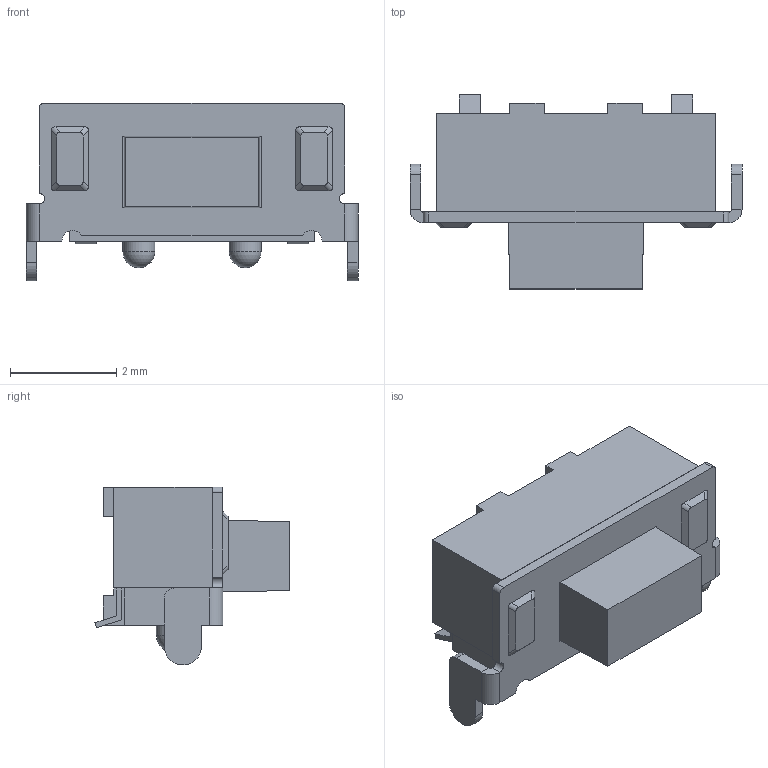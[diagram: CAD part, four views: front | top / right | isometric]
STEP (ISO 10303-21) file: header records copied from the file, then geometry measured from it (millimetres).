
FILE_DESCRIPTION((''),'2;1');
FILE_NAME('JQD2560L-B0351-ADG-1-405_ASM','2026-05-21T16:27:34',('Admin'),(''),'CREO PARAMETRIC BY PTC INC, 2019224','CREO PARAMETRIC BY PTC INC, 2019224','');
FILE_SCHEMA(('AUTOMOTIVE_DESIGN { 1 0 10303 214 1 1 1 1 }'));
Length unit declared in the file: millimetre
Products named in the file (3): JQD2560L-B0351-ADG-1-405; JQD2560L-B0351-ADG-1-405_01; JQD2560L-B0351-ADG-1-405_ASM
Assembly tree (2 placements, depth 2):
  JQD2560L-B0351-ADG-1-405_ASM
    JQD2560L-B0351-ADG-1-405
    JQD2560L-B0351-ADG-1-405_01
Bounding box: 6.25 x 3.66 x 3.35 mm (x, y, z)
Volume: 32.4 mm3; surface area: 106.7 mm2
Topology: 2 solids, 2 shells, 133 faces, 348 edges, 226 vertices
Faces by surface type: plane 103, cylinder 26, sphere 4
Entity records: 5088 total; most frequent: CARTESIAN_POINT 755, ORIENTED_EDGE 684, DIRECTION 652, EDGE_CURVE 342, VECTOR 288, LINE 288, PRESENTATION_STYLE_ASSIGNMENT 239, VERTEX_POINT 222
